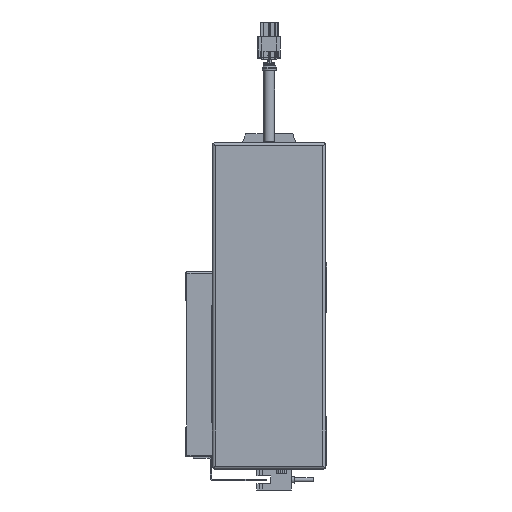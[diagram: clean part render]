
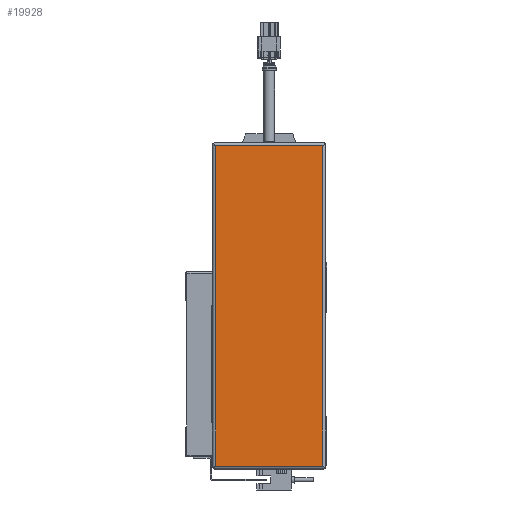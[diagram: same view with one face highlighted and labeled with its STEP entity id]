
A CAD part, left-side view. The second image highlights one B-rep face of the part: STEP entity #19928.
In plain terms, the highlighted planar face has unit normal (-1, 0, 0).
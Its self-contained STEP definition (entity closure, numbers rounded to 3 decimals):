
#4748=ORIENTED_EDGE('',*,*,#8446,.F.);
#4749=ORIENTED_EDGE('',*,*,#8447,.F.);
#4750=ORIENTED_EDGE('',*,*,#8448,.T.);
#4751=ORIENTED_EDGE('',*,*,#8449,.T.);
#8446=EDGE_CURVE('',#10639,#10640,#12752,.T.);
#8447=EDGE_CURVE('',#10641,#10639,#12753,.T.);
#8448=EDGE_CURVE('',#10641,#10642,#12754,.T.);
#8449=EDGE_CURVE('',#10642,#10640,#12755,.T.);
#10639=VERTEX_POINT('',#31812);
#10640=VERTEX_POINT('',#31813);
#10641=VERTEX_POINT('',#31815);
#10642=VERTEX_POINT('',#31817);
#12752=LINE('',#31811,#14849);
#12753=LINE('',#31814,#14850);
#12754=LINE('',#31816,#14851);
#12755=LINE('',#31818,#14852);
#14849=VECTOR('',#25915,1000.);
#14850=VECTOR('',#25916,1000.);
#14851=VECTOR('',#25917,1000.);
#14852=VECTOR('',#25918,1000.);
#16417=EDGE_LOOP('',(#4748,#4749,#4750,#4751));
#17864=FACE_BOUND('',#16417,.T.);
#18942=PLANE('',#21542);
#19928=ADVANCED_FACE('',(#17864),#18942,.F.);
#21542=AXIS2_PLACEMENT_3D('',#31810,#25913,#25914);
#25913=DIRECTION('',(1.,0.,0.));
#25914=DIRECTION('',(0.,0.,-1.));
#25915=DIRECTION('',(0.,0.,-1.));
#25916=DIRECTION('',(0.,-1.,0.));
#25917=DIRECTION('',(0.,0.,-1.));
#25918=DIRECTION('',(0.,-1.,0.));
#31810=CARTESIAN_POINT('',(-52.,2.,34.5));
#31811=CARTESIAN_POINT('',(-52.,2.,36.5));
#31812=CARTESIAN_POINT('',(-52.,2.,34.5));
#31813=CARTESIAN_POINT('',(-52.,2.,-34.5));
#31814=CARTESIAN_POINT('',(-52.,210.,34.5));
#31815=CARTESIAN_POINT('',(-52.,208.,34.5));
#31816=CARTESIAN_POINT('',(-52.,208.,36.5));
#31817=CARTESIAN_POINT('',(-52.,208.,-34.5));
#31818=CARTESIAN_POINT('',(-52.,210.,-34.5));
